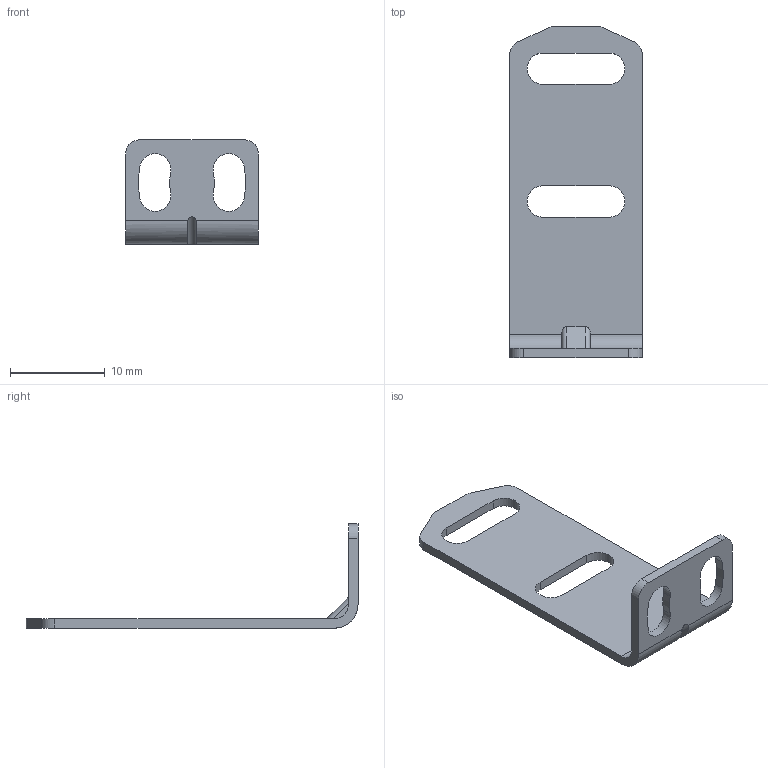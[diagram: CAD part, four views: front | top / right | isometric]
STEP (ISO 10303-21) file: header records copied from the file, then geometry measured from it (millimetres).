
FILE_DESCRIPTION( ( 'STEP AP203' ), '1' );
FILE_NAME( 'p:/temp/worker_39/temp/app_45_02018091713195862226935192d056f_000000_00_00_000000/format_0/E21291.stp', '2018-09-17T11:19:58', ( '' ), ( '' ), ' ', 'PARTsolutions', ' ' );
FILE_SCHEMA( ( 'CONFIG_CONTROL_DESIGN' ) );
Length unit declared in the file: millimetre
Products named in the file (1): _E21291
Bounding box: 14 x 35 x 11 mm (x, y, z)
Volume: 512.2 mm3; surface area: 1213.4 mm2
Topology: 1 solids, 1 shells, 44 faces, 126 edges, 84 vertices
Faces by surface type: cylinder 25, plane 19
Entity records: 1524 total; most frequent: CARTESIAN_POINT 267, DIRECTION 262, ORIENTED_EDGE 252, EDGE_CURVE 126, AXIS2_PLACEMENT_3D 95, VERTEX_POINT 84, LINE 72, VECTOR 72
